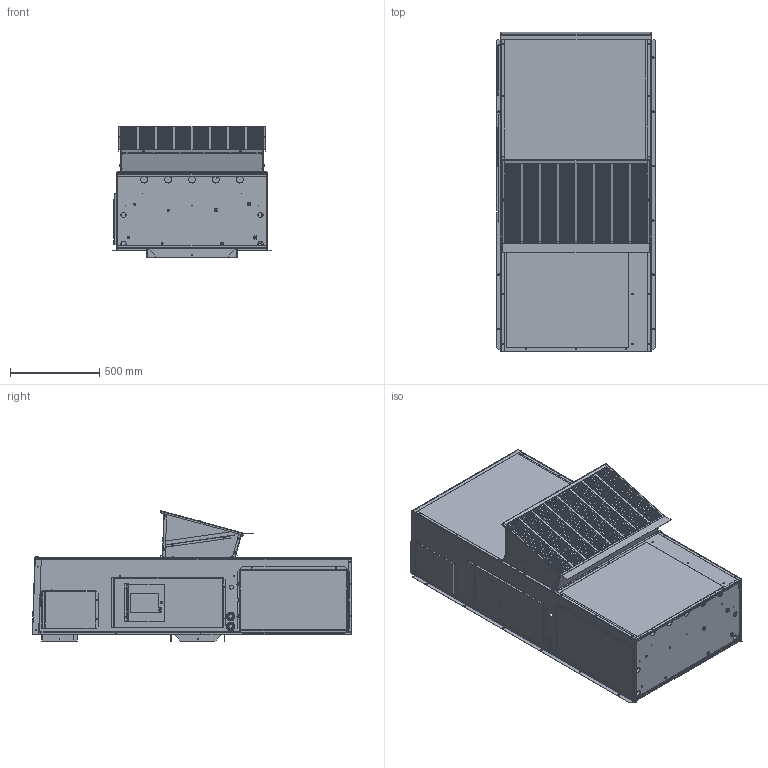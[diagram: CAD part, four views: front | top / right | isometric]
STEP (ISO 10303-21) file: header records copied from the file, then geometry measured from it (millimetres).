
FILE_DESCRIPTION (( 'STEP AP203' ), '1' );
FILE_NAME ('STEP_300_11.STEP', '2016-06-16T12:31:03', ( '' ), ( '' ), 'SwSTEP 2.0', 'SolidWorks 2016', '' );
FILE_SCHEMA (( 'CONFIG_CONTROL_DESIGN' ));
Products named in the file (1): STEP_300_11
Bounding box: 888.56 x 1792.17 x 731.01 mm (x, y, z)
Volume: 25706882.9 mm3; surface area: 15865768.2 mm2
Topology: 117 solids, 117 shells, 6463 faces, 17427 edges, 11273 vertices
Faces by surface type: plane 3511, cylinder 1843, torus 818, bspline 145, cone 137, sphere 9
Entity records: 226965 total; most frequent: CARTESIAN_POINT 60124, ORIENTED_EDGE 34710, DIRECTION 34260, EDGE_CURVE 17355, AXIS2_PLACEMENT_3D 11582, VERTEX_POINT 11273, VECTOR 11096, LINE 11096
